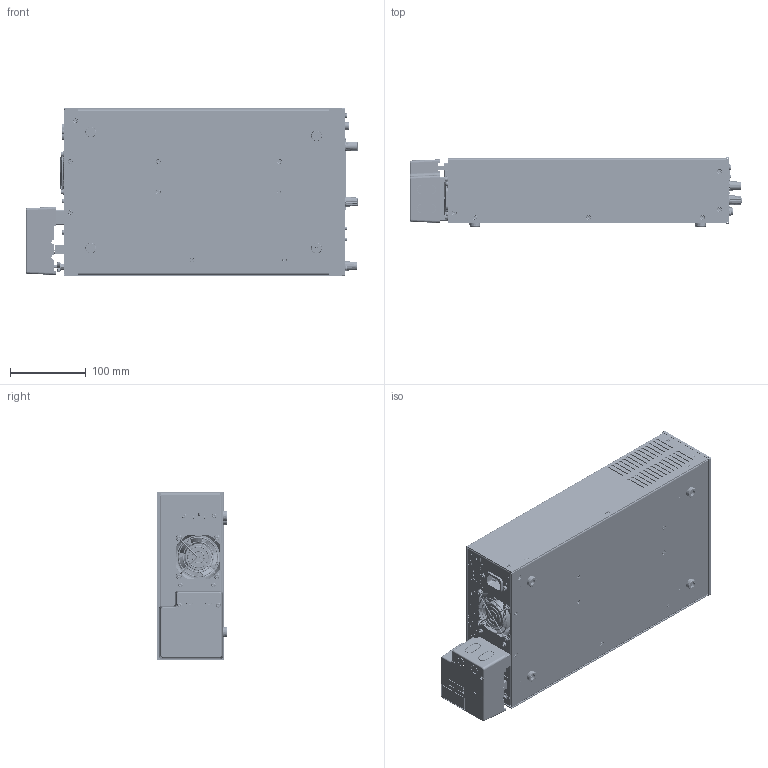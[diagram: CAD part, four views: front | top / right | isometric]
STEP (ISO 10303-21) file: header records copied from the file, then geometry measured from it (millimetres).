
FILE_DESCRIPTION(/* description */ (''),/* implementation_level */ '2;1');
FILE_NAME(/* name */ 'A:\Data\SM800\presentation\SM70-AR24-P258.stp',/* time_stamp */ '2022-11-11T15:55:52+01:00',/* author */ ('Simon'),/* organization */ (''),/* preprocessor_version */ 'ST-DEVELOPER v18.1',/* originating_system */ 'Autodesk Inventor 2022',/* authorisation */ '');
FILE_SCHEMA (('AUTOMOTIVE_DESIGN { 1 0 10303 214 3 1 1 }'));
Products named in the file (1): assembly SM800 outside P258_Simplify_1
Bounding box: 437.5 x 91.55 x 222 mm (x, y, z)
Volume: 6857582.5 mm3; surface area: 398878.5 mm2
Topology: 2 solids, 2 shells, 8953 faces, 23379 edges, 15078 vertices
Faces by surface type: plane 5572, bspline 1726, cylinder 893, cone 503, torus 197, sphere 62
Full cylindrical faces by diameter (mm): 0.393 x1, 0.5 x16, 0.7 x1, 1 x10, 1.1 x15, 1.409 x1, 1.5 x16, 2 x2, 2.156 x2, 2.2 x4, 2.5 x6, 2.73 x2, 3 x27, 3.1 x4, 3.2 x23, 3.4 x4, 3.5 x15, 4 x6, 4.2 x6, 4.25 x6, 4.3 x6, 4.4 x4, 4.6 x2, 5 x5, 5.2 x2, 5.5 x25, 6 x27, 6.5 x2, 6.7 x2, 6.8 x4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
Entity records: 296972 total; most frequent: CARTESIAN_POINT 79828, ORIENTED_EDGE 46622, DIRECTION 36681, EDGE_CURVE 23311, LINE 15413, VECTOR 15413, VERTEX_POINT 15078, AXIS2_PLACEMENT_3D 10634
